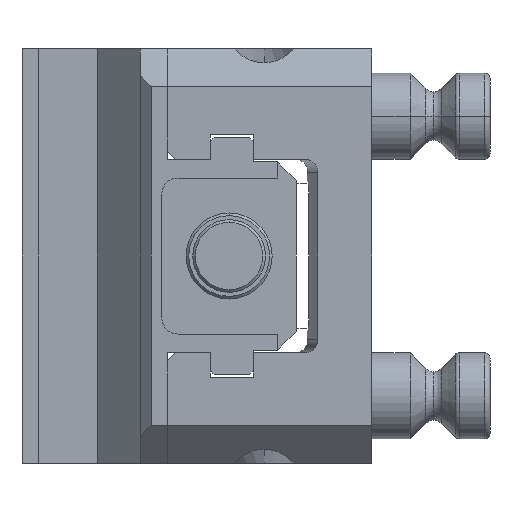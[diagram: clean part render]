
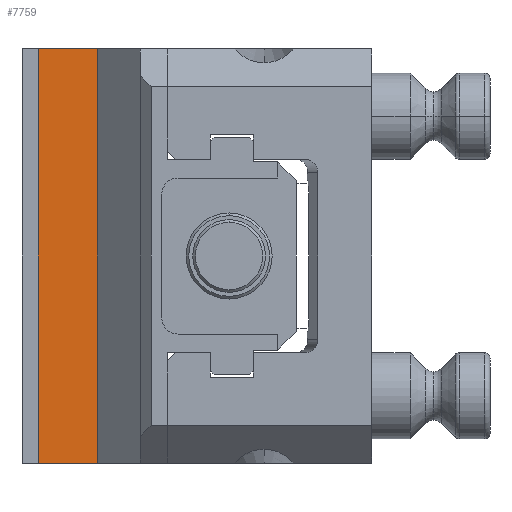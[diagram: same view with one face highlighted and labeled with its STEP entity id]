
A CAD part, left-side view. The second image highlights one B-rep face of the part: STEP entity #7759.
In plain terms, the highlighted planar face has unit normal (-1, 0, 0).
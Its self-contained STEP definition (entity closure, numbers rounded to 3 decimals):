
#272 = DIRECTION ( 'NONE',  ( 1., 0., 0. ) ) ;
#809 = EDGE_CURVE ( 'NONE', #15194, #13723, #14720, .T. ) ;
#891 = CARTESIAN_POINT ( 'NONE',  ( -41.782, 62., -38.5 ) ) ;
#1979 = LINE ( 'NONE', #13398, #13615 ) ;
#2061 = CARTESIAN_POINT ( 'NONE',  ( -41.782, 62., 38.5 ) ) ;
#2393 = EDGE_LOOP ( 'NONE', ( #14040, #5602, #10007, #13690 ) ) ;
#2508 = CARTESIAN_POINT ( 'NONE',  ( -41.782, 62., -38.5 ) ) ;
#3264 = DIRECTION ( 'NONE',  ( 0., 1., 0. ) ) ;
#3928 = DIRECTION ( 'NONE',  ( 0., 1., 0. ) ) ;
#4234 = VERTEX_POINT ( 'NONE', #891 ) ;
#5010 = PLANE ( 'NONE',  #14299 ) ;
#5070 = EDGE_CURVE ( 'NONE', #12253, #4234, #16027, .T. ) ;
#5602 = ORIENTED_EDGE ( 'NONE', *, *, #12135, .F. ) ;
#7591 = VECTOR ( 'NONE', #3264, 1000. ) ;
#7759 = ADVANCED_FACE ( 'NONE', ( #15375 ), #5010, .F. ) ;
#8617 = CARTESIAN_POINT ( 'NONE',  ( -41.782, 62., -38.5 ) ) ;
#9120 = CARTESIAN_POINT ( 'NONE',  ( -41.782, 62., -38.5 ) ) ;
#10007 = ORIENTED_EDGE ( 'NONE', *, *, #5070, .F. ) ;
#10303 = DIRECTION ( 'NONE',  ( 0., 0., -1. ) ) ;
#12041 = DIRECTION ( 'NONE',  ( 0., 0., 1. ) ) ;
#12135 = EDGE_CURVE ( 'NONE', #4234, #13723, #15251, .T. ) ;
#12253 = VERTEX_POINT ( 'NONE', #15368 ) ;
#12408 = CARTESIAN_POINT ( 'NONE',  ( -41.782, 51., 38.5 ) ) ;
#12481 = EDGE_CURVE ( 'NONE', #12253, #15194, #1979, .T. ) ;
#13007 = VECTOR ( 'NONE', #3928, 1000. ) ;
#13247 = VECTOR ( 'NONE', #16115, 1000. ) ;
#13398 = CARTESIAN_POINT ( 'NONE',  ( -41.782, 51., -38.5 ) ) ;
#13615 = VECTOR ( 'NONE', #12041, 1000. ) ;
#13690 = ORIENTED_EDGE ( 'NONE', *, *, #12481, .T. ) ;
#13723 = VERTEX_POINT ( 'NONE', #14170 ) ;
#14040 = ORIENTED_EDGE ( 'NONE', *, *, #809, .T. ) ;
#14170 = CARTESIAN_POINT ( 'NONE',  ( -41.782, 62., 38.5 ) ) ;
#14299 = AXIS2_PLACEMENT_3D ( 'NONE', #9120, #272, #10303 ) ;
#14720 = LINE ( 'NONE', #2061, #7591 ) ;
#15194 = VERTEX_POINT ( 'NONE', #12408 ) ;
#15251 = LINE ( 'NONE', #8617, #13247 ) ;
#15368 = CARTESIAN_POINT ( 'NONE',  ( -41.782, 51., -38.5 ) ) ;
#15375 = FACE_OUTER_BOUND ( 'NONE', #2393, .T. ) ;
#16027 = LINE ( 'NONE', #2508, #13007 ) ;
#16115 = DIRECTION ( 'NONE',  ( 0., 0., 1. ) ) ;
